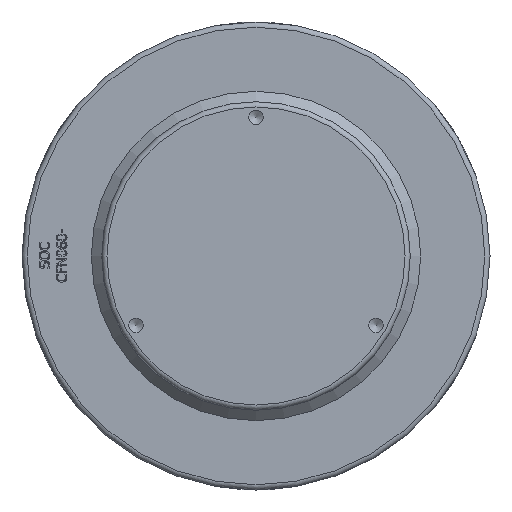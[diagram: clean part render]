
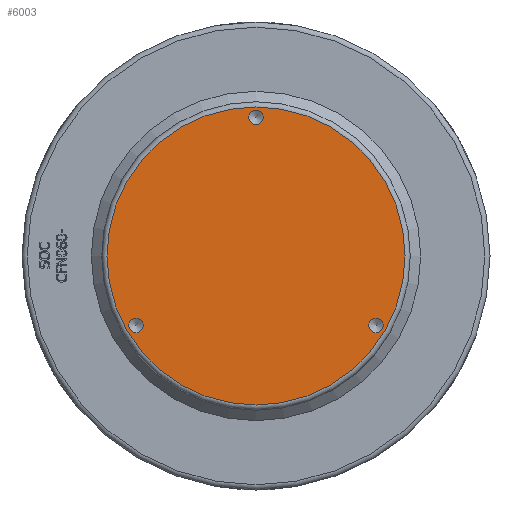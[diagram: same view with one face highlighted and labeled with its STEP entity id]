
A CAD part, front view. The second image highlights one B-rep face of the part: STEP entity #6003.
In plain terms, the highlighted planar face has unit normal (0, -1, 0) as drawn and (0, 1, 0) by its records, which use the part's own axes.
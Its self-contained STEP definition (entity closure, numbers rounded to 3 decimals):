
#1608=PLANE('',#6307);
#1682=FACE_BOUND('',#2269,.T.);
#1683=FACE_BOUND('',#2270,.T.);
#1684=FACE_BOUND('',#2271,.T.);
#1902=FACE_OUTER_BOUND('',#2268,.T.);
#2268=EDGE_LOOP('',(#4899));
#2269=EDGE_LOOP('',(#4900));
#2270=EDGE_LOOP('',(#4901));
#2271=EDGE_LOOP('',(#4902));
#2493=CIRCLE('',#6241,4.188);
#2495=CIRCLE('',#6245,4.188);
#2497=CIRCLE('',#6249,4.188);
#2499=CIRCLE('',#6305,86.);
#2519=VERTEX_POINT('',#7190);
#2521=VERTEX_POINT('',#7196);
#2523=VERTEX_POINT('',#7202);
#2813=VERTEX_POINT('',#9450);
#3131=EDGE_CURVE('',#2519,#2519,#2493,.T.);
#3133=EDGE_CURVE('',#2521,#2521,#2495,.T.);
#3135=EDGE_CURVE('',#2523,#2523,#2497,.T.);
#3569=EDGE_CURVE('',#2813,#2813,#2499,.T.);
#4899=ORIENTED_EDGE('',*,*,#3569,.F.);
#4900=ORIENTED_EDGE('',*,*,#3131,.T.);
#4901=ORIENTED_EDGE('',*,*,#3133,.T.);
#4902=ORIENTED_EDGE('',*,*,#3135,.T.);
#6003=ADVANCED_FACE('',(#1902,#1682,#1683,#1684),#1608,.T.);
#6241=AXIS2_PLACEMENT_3D('',#7191,#6415,#6416);
#6245=AXIS2_PLACEMENT_3D('',#7197,#6423,#6424);
#6249=AXIS2_PLACEMENT_3D('',#7203,#6431,#6432);
#6305=AXIS2_PLACEMENT_3D('',#9451,#6765,#6766);
#6307=AXIS2_PLACEMENT_3D('',#9454,#6769,#6770);
#6415=DIRECTION('center_axis',(0.,-1.,0.));
#6416=DIRECTION('ref_axis',(-0.5,0.,-0.866));
#6423=DIRECTION('center_axis',(0.,-1.,0.));
#6424=DIRECTION('ref_axis',(-0.5,0.,0.866));
#6431=DIRECTION('center_axis',(0.,-1.,0.));
#6432=DIRECTION('ref_axis',(1.,0.,0.));
#6765=DIRECTION('center_axis',(0.,-1.,0.));
#6766=DIRECTION('ref_axis',(-1.,0.,0.));
#6769=DIRECTION('center_axis',(0.,1.,0.));
#6770=DIRECTION('ref_axis',(0.,0.,1.));
#7190=CARTESIAN_POINT('',(67.188,157.5,-43.627));
#7191=CARTESIAN_POINT('Origin',(69.282,157.5,-40.));
#7196=CARTESIAN_POINT('',(-71.376,157.5,-36.373));
#7197=CARTESIAN_POINT('Origin',(-69.282,157.5,-40.));
#7202=CARTESIAN_POINT('',(4.188,157.5,80.));
#7203=CARTESIAN_POINT('Origin',(0.,157.5,80.));
#9450=CARTESIAN_POINT('',(86.,157.5,0.));
#9451=CARTESIAN_POINT('Origin',(0.,157.5,0.));
#9454=CARTESIAN_POINT('Origin',(89.,157.5,0.));
